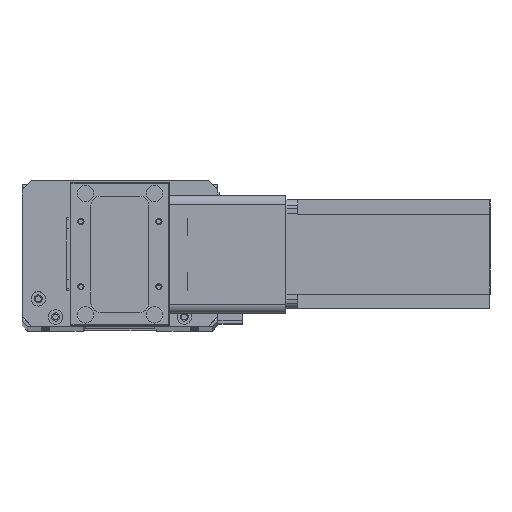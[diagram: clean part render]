
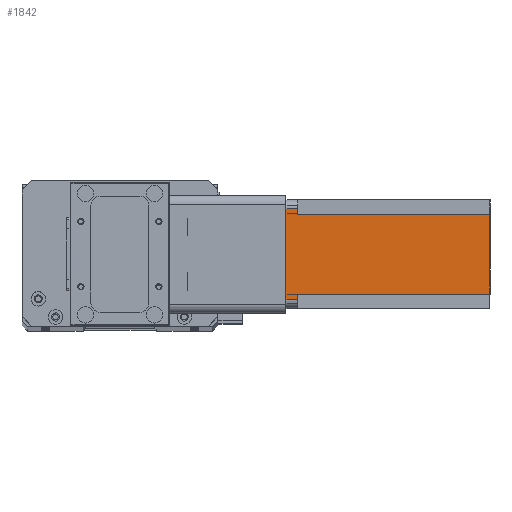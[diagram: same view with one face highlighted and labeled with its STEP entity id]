
A CAD part, top view. The second image highlights one B-rep face of the part: STEP entity #1842.
In plain terms, the highlighted planar face has unit normal (0, 0, 1) as drawn and (0, 1, 0) by its records, which use the part's own axes.
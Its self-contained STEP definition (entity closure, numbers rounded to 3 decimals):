
#1066 = ORIENTED_EDGE ( 'NONE', *, *, #17329, .T. ) ;
#1842 = ADVANCED_FACE ( 'NONE', ( #8514 ), #25080, .T. ) ;
#2140 = LINE ( 'NONE', #16920, #7170 ) ;
#2313 = ORIENTED_EDGE ( 'NONE', *, *, #4779, .F. ) ;
#2785 = ORIENTED_EDGE ( 'NONE', *, *, #4274, .T. ) ;
#2831 = EDGE_CURVE ( 'NONE', #16161, #10436, #23162, .T. ) ;
#3457 = EDGE_CURVE ( 'NONE', #21781, #7015, #20543, .T. ) ;
#3728 = CARTESIAN_POINT ( 'NONE',  ( 55., 60., -112.5 ) ) ;
#3818 = DIRECTION ( 'NONE',  ( 0., 0., -1. ) ) ;
#4274 = EDGE_CURVE ( 'NONE', #22316, #10624, #9202, .T. ) ;
#4339 = CARTESIAN_POINT ( 'NONE',  ( 55., 60., -6.5 ) ) ;
#4779 = EDGE_CURVE ( 'NONE', #16161, #6606, #25480, .T. ) ;
#5073 = CARTESIAN_POINT ( 'NONE',  ( 8., 60., -6.5 ) ) ;
#5374 = CARTESIAN_POINT ( 'NONE',  ( 5., 60., -112.5 ) ) ;
#5983 = DIRECTION ( 'NONE',  ( 0., 1., 0. ) ) ;
#6085 = EDGE_CURVE ( 'NONE', #21781, #18301, #25104, .T. ) ;
#6167 = VECTOR ( 'NONE', #23065, 1000. ) ;
#6576 = LINE ( 'NONE', #5374, #12894 ) ;
#6606 = VERTEX_POINT ( 'NONE', #15413 ) ;
#6657 = CARTESIAN_POINT ( 'NONE',  ( 55., 60., 0. ) ) ;
#7015 = VERTEX_POINT ( 'NONE', #4339 ) ;
#7170 = VECTOR ( 'NONE', #19075, 1000. ) ;
#8064 = CARTESIAN_POINT ( 'NONE',  ( 0., 60., -112.5 ) ) ;
#8321 = EDGE_LOOP ( 'NONE', ( #22770, #23430, #17967, #2313, #15432, #8810, #2785, #1066 ) ) ;
#8514 = FACE_OUTER_BOUND ( 'NONE', #8321, .T. ) ;
#8810 = ORIENTED_EDGE ( 'NONE', *, *, #11763, .F. ) ;
#9145 = VECTOR ( 'NONE', #24705, 1000. ) ;
#9202 = LINE ( 'NONE', #5073, #19865 ) ;
#9811 = CARTESIAN_POINT ( 'NONE',  ( 52., 60., -6.5 ) ) ;
#10436 = VERTEX_POINT ( 'NONE', #10745 ) ;
#10624 = VERTEX_POINT ( 'NONE', #14439 ) ;
#10745 = CARTESIAN_POINT ( 'NONE',  ( 8., 60., -112.5 ) ) ;
#11487 = DIRECTION ( 'NONE',  ( -1., 0., 0. ) ) ;
#11763 = EDGE_CURVE ( 'NONE', #22316, #10436, #2140, .T. ) ;
#12134 = CARTESIAN_POINT ( 'NONE',  ( 0., 60., 0. ) ) ;
#12314 = CARTESIAN_POINT ( 'NONE',  ( 0., 60., -112.5 ) ) ;
#12894 = VECTOR ( 'NONE', #20283, 1000. ) ;
#13753 = VECTOR ( 'NONE', #24903, 1000. ) ;
#14439 = CARTESIAN_POINT ( 'NONE',  ( 5., 60., -6.5 ) ) ;
#14769 = LINE ( 'NONE', #9811, #9145 ) ;
#15413 = CARTESIAN_POINT ( 'NONE',  ( 52., 60., -6.5 ) ) ;
#15432 = ORIENTED_EDGE ( 'NONE', *, *, #2831, .T. ) ;
#15713 = CARTESIAN_POINT ( 'NONE',  ( 8., 60., -6.5 ) ) ;
#16161 = VERTEX_POINT ( 'NONE', #16323 ) ;
#16323 = CARTESIAN_POINT ( 'NONE',  ( 52., 60., -112.5 ) ) ;
#16920 = CARTESIAN_POINT ( 'NONE',  ( 8., 60., -112.5 ) ) ;
#17329 = EDGE_CURVE ( 'NONE', #10624, #18301, #6576, .T. ) ;
#17510 = CARTESIAN_POINT ( 'NONE',  ( 52., 60., -112.5 ) ) ;
#17967 = ORIENTED_EDGE ( 'NONE', *, *, #20802, .F. ) ;
#18301 = VERTEX_POINT ( 'NONE', #26255 ) ;
#19075 = DIRECTION ( 'NONE',  ( 0., 0., -1. ) ) ;
#19156 = VECTOR ( 'NONE', #23925, 1000. ) ;
#19582 = AXIS2_PLACEMENT_3D ( 'NONE', #12314, #5983, #20881 ) ;
#19864 = VECTOR ( 'NONE', #3818, 1000. ) ;
#19865 = VECTOR ( 'NONE', #11487, 1000. ) ;
#20283 = DIRECTION ( 'NONE',  ( 0., 0., 1. ) ) ;
#20543 = LINE ( 'NONE', #3728, #19864 ) ;
#20802 = EDGE_CURVE ( 'NONE', #6606, #7015, #14769, .T. ) ;
#20881 = DIRECTION ( 'NONE',  ( 0., 0., 1. ) ) ;
#21781 = VERTEX_POINT ( 'NONE', #6657 ) ;
#22316 = VERTEX_POINT ( 'NONE', #15713 ) ;
#22770 = ORIENTED_EDGE ( 'NONE', *, *, #6085, .F. ) ;
#23065 = DIRECTION ( 'NONE',  ( -1., 0., 0. ) ) ;
#23162 = LINE ( 'NONE', #8064, #6167 ) ;
#23430 = ORIENTED_EDGE ( 'NONE', *, *, #3457, .T. ) ;
#23925 = DIRECTION ( 'NONE',  ( 0., 0., 1. ) ) ;
#24705 = DIRECTION ( 'NONE',  ( 1., 0., 0. ) ) ;
#24903 = DIRECTION ( 'NONE',  ( -1., 0., 0. ) ) ;
#25080 = PLANE ( 'NONE',  #19582 ) ;
#25104 = LINE ( 'NONE', #12134, #13753 ) ;
#25480 = LINE ( 'NONE', #17510, #19156 ) ;
#26255 = CARTESIAN_POINT ( 'NONE',  ( 5., 60., 0. ) ) ;
